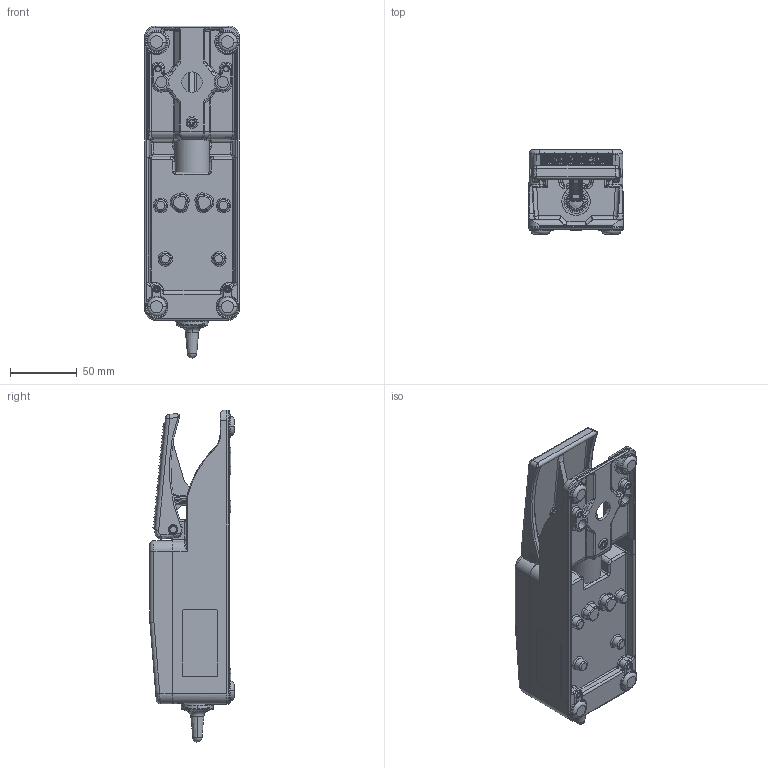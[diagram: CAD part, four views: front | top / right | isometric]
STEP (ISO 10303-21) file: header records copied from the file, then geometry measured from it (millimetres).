
FILE_DESCRIPTION((''),'2;1');
FILE_NAME('6061500582_SW0002','2025-12-02T10:53:26',('Hartwig.Bicknese'),(''),'CREO PARAMETRIC BY PTC INC, 2022124','CREO PARAMETRIC BY PTC INC, 2022124','');
FILE_SCHEMA(('AUTOMOTIVE_DESIGN { 1 0 10303 214 1 1 1 1 }'));
Products named in the file (1): 6061500582_SW0002
Bounding box: 70.75 x 63 x 248.28 mm (x, y, z)
Volume: 326049.5 mm3; surface area: 124184.5 mm2
Topology: 3 solids, 3 shells, 2335 faces, 5350 edges, 3240 vertices
Faces by surface type: plane 1076, cylinder 568, bspline 283, torus 253, cone 131, sphere 24
Entity records: 122110 total; most frequent: CARTESIAN_POINT 38310, ORIENTED_EDGE 10680, DIRECTION 9972, PRESENTATION_STYLE_ASSIGNMENT 7679, STYLED_ITEM 5344, CURVE_STYLE 5341, EDGE_CURVE 5340, AXIS2_PLACEMENT_3D 3609
